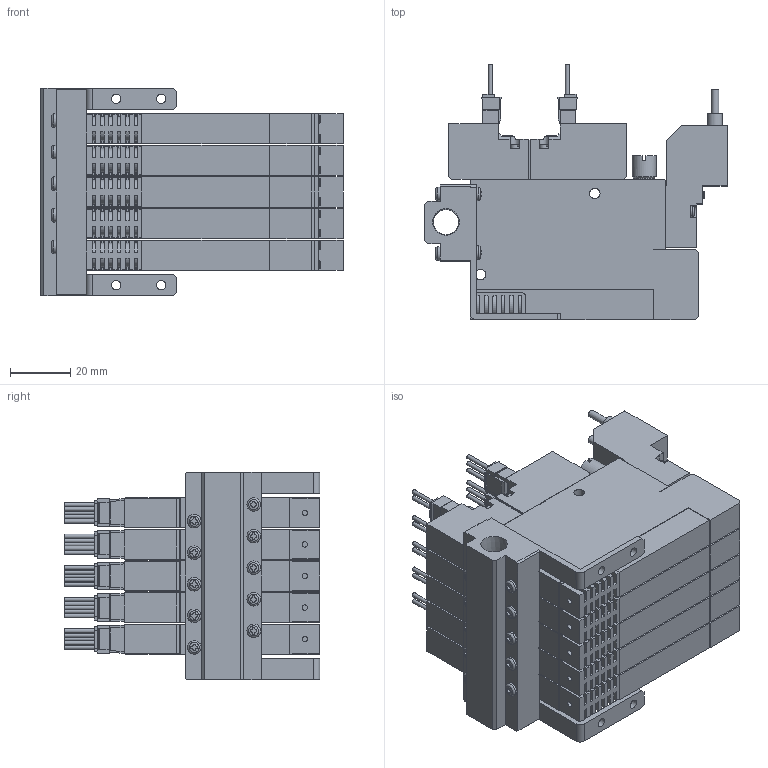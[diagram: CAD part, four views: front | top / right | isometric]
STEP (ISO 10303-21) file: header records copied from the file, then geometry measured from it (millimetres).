
FILE_DESCRIPTION(('STEP AP203'),'1');
FILE_NAME('5WS505_3D.stp','2024-09-04T22:52:20',(' '),(' '),'Spatial InterOp 3D',' ',' ');
FILE_SCHEMA(('CONFIG_CONTROL_DESIGN'));
Length unit declared in the file: millimetre
Products named in the file (5): BSC1M※※V8※5WS505; Solenoid valve W; Pressure Sensor V8; Unit-S; BaseMS50R
Assembly tree (16 placements, depth 2):
  BSC1M※※V8※5WS505
    Solenoid valve W  x5
    Pressure Sensor V8  x5
    Unit-S  x5
    BaseMS50R
Bounding box: 100.5 x 85.05 x 69 mm (x, y, z)
Volume: 254280.7 mm3; surface area: 104450.8 mm2
Topology: 16 solids, 16 shells, 2485 faces, 6780 edges, 4496 vertices
Faces by surface type: plane 1838, cylinder 552, cone 37, torus 34, sphere 24
Full cylindrical faces by diameter (mm): 1.4 x25, 1.8 x5, 2.5 x25, 3 x24, 3.5 x30, 4 x5, 4.134 x10, 4.5 x14, 5 x5, 5.5 x5, 7 x5, 7.7 x5, 8 x5, 8.422 x1
Entity records: 22207 total; most frequent: CARTESIAN_POINT 4932, ORIENTED_EDGE 3436, DIRECTION 3433, EDGE_CURVE 1718, LINE 1197, VECTOR 1197, VERTEX_POINT 1193, AXIS2_PLACEMENT_3D 1118
